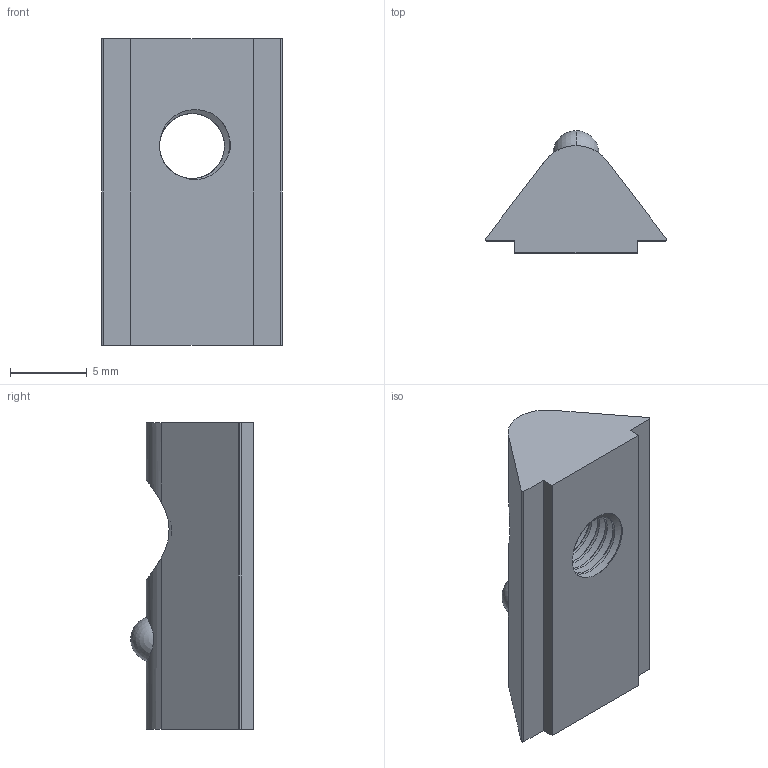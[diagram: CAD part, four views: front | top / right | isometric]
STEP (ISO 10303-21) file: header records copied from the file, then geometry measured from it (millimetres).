
FILE_DESCRIPTION (( 'STEP AP214' ), '1' );
FILE_NAME ('8-4-M4.30.STEP', '2019-01-13T09:31:31', ( '' ), ( '' ), 'SwSTEP 2.0', 'SolidWorks 2018', '' );
FILE_SCHEMA (( 'AUTOMOTIVE_DESIGN' ));
Length unit declared in the file: millimetre
Products named in the file (3): Bal 6-2; Moer 8-4-30-M4; 8-4-M4.30
Assembly tree (2 placements, depth 2):
  8-4-M4.30
    Moer 8-4-30-M4
    Bal 6-2
Bounding box: 11.79 x 8 x 20 mm (x, y, z)
Volume: 901.5 mm3; surface area: 862 mm2
Topology: 2 solids, 2 shells, 45 faces, 129 edges, 84 vertices
Faces by surface type: cylinder 24, plane 10, cone 4, sphere 4, bspline 3
Entity records: 2901 total; most frequent: CARTESIAN_POINT 1796, ORIENTED_EDGE 246, DIRECTION 176, EDGE_CURVE 123, VERTEX_POINT 82, AXIS2_PLACEMENT_3D 64, VECTOR 48, LINE 48
